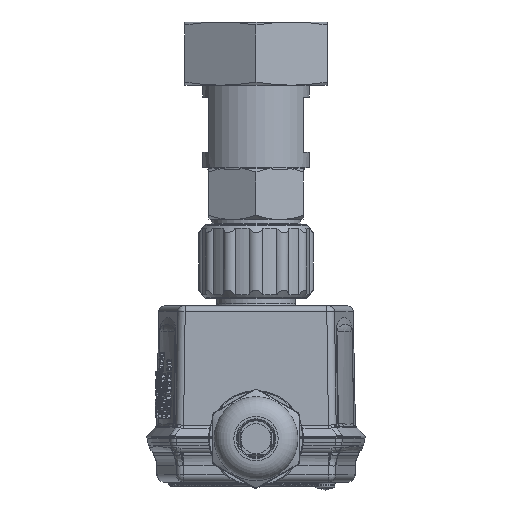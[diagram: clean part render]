
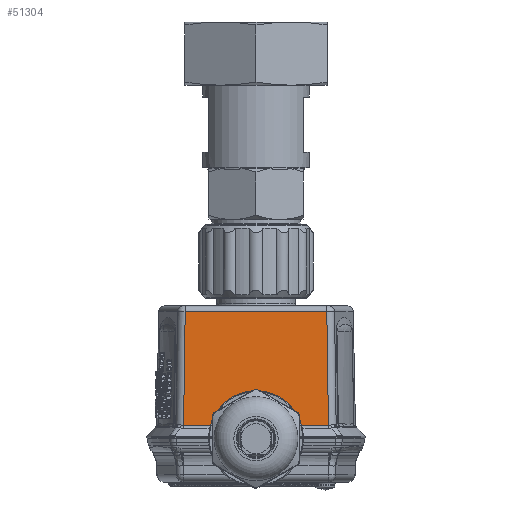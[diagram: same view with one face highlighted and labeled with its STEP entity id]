
A CAD part, front view. The second image highlights one B-rep face of the part: STEP entity #51304.
In plain terms, the highlighted planar face has unit normal (0, -1, 0.018).
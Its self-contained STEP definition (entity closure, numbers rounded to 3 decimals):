
#934=(
BOUNDED_CURVE()
B_SPLINE_CURVE(3,(#121548,#121549,#121550,#121551,#121552,#121553),
 .UNSPECIFIED.,.F.,.F.)
B_SPLINE_CURVE_WITH_KNOTS((4,2,4),(3.188,3.95,4.712),
 .UNSPECIFIED.)
CURVE()
GEOMETRIC_REPRESENTATION_ITEM()
RATIONAL_B_SPLINE_CURVE((1.,1.,1.,1.,1.,1.))
REPRESENTATION_ITEM('')
);
#935=(
BOUNDED_CURVE()
B_SPLINE_CURVE(3,(#121557,#121558,#121559,#121560,#121561,#121562),
 .UNSPECIFIED.,.F.,.F.)
B_SPLINE_CURVE_WITH_KNOTS((4,2,4),(1.571,2.333,3.095),
 .UNSPECIFIED.)
CURVE()
GEOMETRIC_REPRESENTATION_ITEM()
RATIONAL_B_SPLINE_CURVE((1.,1.,1.,1.,1.,1.))
REPRESENTATION_ITEM('')
);
#3488=LINE('',#121530,#5964);
#3489=LINE('',#121546,#5965);
#3490=LINE('',#121564,#5966);
#3491=LINE('',#121580,#5967);
#3492=LINE('',#121582,#5968);
#3493=LINE('',#121584,#5969);
#3494=LINE('',#121585,#5970);
#5964=VECTOR('',#63180,10.767);
#5965=VECTOR('',#63181,3.643);
#5966=VECTOR('',#63184,3.643);
#5967=VECTOR('',#63185,10.767);
#5968=VECTOR('',#63186,28.884);
#5969=VECTOR('',#63187,35.856);
#5970=VECTOR('',#63188,28.884);
#8889=B_SPLINE_CURVE_WITH_KNOTS('',3,(#121532,#121533,#121534,#121535,#121536,
#121537,#121538,#121539,#121540,#121541,#121542,#121543,#121544),
 .UNSPECIFIED.,.F.,.F.,(4,3,3,3,4),(5.107,5.384,5.651,
5.919,6.167),.UNSPECIFIED.);
#8890=B_SPLINE_CURVE_WITH_KNOTS('',3,(#121566,#121567,#121568,#121569,#121570,
#121571,#121572,#121573,#121574,#121575,#121576,#121577,#121578),
 .UNSPECIFIED.,.F.,.F.,(4,3,3,3,4),(0.116,0.381,
0.646,0.911,1.176),.UNSPECIFIED.);
#10525=PLANE('',#54745);
#13037=FACE_OUTER_BOUND('',#16238,.T.);
#16238=EDGE_LOOP('',(#42622,#42623,#42624,#42625,#42626,#42627,#42628,#42629,
#42630,#42631,#42632,#42633));
#18386=CIRCLE('',#54746,12.2);
#22986=VERTEX_POINT('',#121528);
#22987=VERTEX_POINT('',#121529);
#22988=VERTEX_POINT('',#121531);
#22989=VERTEX_POINT('',#121545);
#22990=VERTEX_POINT('',#121547);
#22991=VERTEX_POINT('',#121554);
#22992=VERTEX_POINT('',#121556);
#22993=VERTEX_POINT('',#121563);
#22994=VERTEX_POINT('',#121565);
#22995=VERTEX_POINT('',#121579);
#22996=VERTEX_POINT('',#121581);
#22997=VERTEX_POINT('',#121583);
#29721=EDGE_CURVE('',#22986,#22987,#3488,.T.);
#29722=EDGE_CURVE('',#22987,#22988,#8889,.T.);
#29723=EDGE_CURVE('',#22988,#22989,#3489,.T.);
#29724=EDGE_CURVE('',#22990,#22989,#934,.T.);
#29725=EDGE_CURVE('',#22990,#22991,#18386,.T.);
#29726=EDGE_CURVE('',#22992,#22991,#935,.T.);
#29727=EDGE_CURVE('',#22992,#22993,#3490,.T.);
#29728=EDGE_CURVE('',#22993,#22994,#8890,.T.);
#29729=EDGE_CURVE('',#22994,#22995,#3491,.T.);
#29730=EDGE_CURVE('',#22995,#22996,#3492,.T.);
#29731=EDGE_CURVE('',#22996,#22997,#3493,.T.);
#29732=EDGE_CURVE('',#22997,#22986,#3494,.T.);
#42622=ORIENTED_EDGE('',*,*,#29721,.T.);
#42623=ORIENTED_EDGE('',*,*,#29722,.T.);
#42624=ORIENTED_EDGE('',*,*,#29723,.T.);
#42625=ORIENTED_EDGE('',*,*,#29724,.F.);
#42626=ORIENTED_EDGE('',*,*,#29725,.T.);
#42627=ORIENTED_EDGE('',*,*,#29726,.F.);
#42628=ORIENTED_EDGE('',*,*,#29727,.T.);
#42629=ORIENTED_EDGE('',*,*,#29728,.T.);
#42630=ORIENTED_EDGE('',*,*,#29729,.T.);
#42631=ORIENTED_EDGE('',*,*,#29730,.T.);
#42632=ORIENTED_EDGE('',*,*,#29731,.T.);
#42633=ORIENTED_EDGE('',*,*,#29732,.T.);
#51304=ADVANCED_FACE('',(#13037),#10525,.T.);
#54745=AXIS2_PLACEMENT_3D('',#121527,#63178,#63179);
#54746=AXIS2_PLACEMENT_3D('',#121555,#63182,#63183);
#63178=DIRECTION('center_axis',(0.,-1.,0.017));
#63179=DIRECTION('ref_axis',(0.,-0.017,-1.));
#63180=DIRECTION('',(1.,0.,0.));
#63181=DIRECTION('',(0.,0.017,1.));
#63182=DIRECTION('center_axis',(0.,1.,
-0.017));
#63183=DIRECTION('ref_axis',(0.047,0.017,0.999));
#63184=DIRECTION('',(0.,-0.017,-1.));
#63185=DIRECTION('',(1.,0.,0.));
#63186=DIRECTION('',(-0.014,0.017,1.));
#63187=DIRECTION('',(-1.,0.,0.));
#63188=DIRECTION('',(-0.014,-0.017,-1.));
#121527=CARTESIAN_POINT('Origin',(20.,-23.,-33.5));
#121528=CARTESIAN_POINT('',(-18.336,-22.945,-30.35));
#121529=CARTESIAN_POINT('',(-7.569,-22.945,-30.35));
#121530=CARTESIAN_POINT('',(-7.503,-22.945,-30.35));
#121531=CARTESIAN_POINT('',(-0.95,-22.858,-25.359));
#121532=CARTESIAN_POINT('Ctrl Pts',(-7.569,-22.945,
-30.35));
#121533=CARTESIAN_POINT('Ctrl Pts',(-7.292,-22.933,
-29.684));
#121534=CARTESIAN_POINT('Ctrl Pts',(-6.914,-22.922,
-29.03));
#121535=CARTESIAN_POINT('Ctrl Pts',(-6.443,-22.912,
-28.431));
#121536=CARTESIAN_POINT('Ctrl Pts',(-5.988,-22.901,
-27.853));
#121537=CARTESIAN_POINT('Ctrl Pts',(-5.446,-22.892,
-27.328));
#121538=CARTESIAN_POINT('Ctrl Pts',(-4.843,-22.885,
-26.886));
#121539=CARTESIAN_POINT('Ctrl Pts',(-4.238,-22.877,
-26.444));
#121540=CARTESIAN_POINT('Ctrl Pts',(-3.573,-22.871,
-26.086));
#121541=CARTESIAN_POINT('Ctrl Pts',(-2.885,-22.866,
-25.828));
#121542=CARTESIAN_POINT('Ctrl Pts',(-2.248,-22.862,
-25.588));
#121543=CARTESIAN_POINT('Ctrl Pts',(-1.593,-22.859,
-25.434));
#121544=CARTESIAN_POINT('Ctrl Pts',(-0.95,-22.858,
-25.359));
#121545=CARTESIAN_POINT('',(-0.95,-22.794,-21.716));
#121546=CARTESIAN_POINT('',(-0.95,-23.,-33.5));
#121547=CARTESIAN_POINT('',(-0.569,-22.787,-21.317));
#121548=CARTESIAN_POINT('Ctrl Pts',(-0.569,-22.787,
-21.317));
#121549=CARTESIAN_POINT('Ctrl Pts',(-0.67,-22.787,
-21.321));
#121550=CARTESIAN_POINT('Ctrl Pts',(-0.769,-22.788,
-21.367));
#121551=CARTESIAN_POINT('Ctrl Pts',(-0.91,-22.791,
-21.514));
#121552=CARTESIAN_POINT('Ctrl Pts',(-0.95,-22.793,
-21.614));
#121553=CARTESIAN_POINT('Ctrl Pts',(-0.95,-22.794,-21.716));
#121554=CARTESIAN_POINT('',(0.569,-22.787,-21.317));
#121555=CARTESIAN_POINT('Origin',(0.,-23.,
-33.502));
#121556=CARTESIAN_POINT('',(0.95,-22.794,-21.716));
#121557=CARTESIAN_POINT('Ctrl Pts',(0.95,-22.794,-21.716));
#121558=CARTESIAN_POINT('Ctrl Pts',(0.95,-22.793,
-21.614));
#121559=CARTESIAN_POINT('Ctrl Pts',(0.91,-22.791,
-21.514));
#121560=CARTESIAN_POINT('Ctrl Pts',(0.769,-22.788,
-21.367));
#121561=CARTESIAN_POINT('Ctrl Pts',(0.67,-22.787,
-21.321));
#121562=CARTESIAN_POINT('Ctrl Pts',(0.569,-22.787,
-21.317));
#121563=CARTESIAN_POINT('',(0.95,-22.858,-25.359));
#121564=CARTESIAN_POINT('',(0.95,-23.,-33.5));
#121565=CARTESIAN_POINT('',(7.569,-22.945,-30.35));
#121566=CARTESIAN_POINT('Ctrl Pts',(0.95,-22.858,
-25.359));
#121567=CARTESIAN_POINT('Ctrl Pts',(1.669,-22.859,
-25.443));
#121568=CARTESIAN_POINT('Ctrl Pts',(2.378,-22.862,
-25.622));
#121569=CARTESIAN_POINT('Ctrl Pts',(3.05,-22.867,
-25.892));
#121570=CARTESIAN_POINT('Ctrl Pts',(3.722,-22.872,
-26.161));
#121571=CARTESIAN_POINT('Ctrl Pts',(4.359,-22.878,
-26.52));
#121572=CARTESIAN_POINT('Ctrl Pts',(4.937,-22.886,
-26.956));
#121573=CARTESIAN_POINT('Ctrl Pts',(5.515,-22.893,-27.392));
#121574=CARTESIAN_POINT('Ctrl Pts',(6.035,-22.902,
-27.906));
#121575=CARTESIAN_POINT('Ctrl Pts',(6.479,-22.912,
-28.478));
#121576=CARTESIAN_POINT('Ctrl Pts',(6.923,-22.922,
-29.05));
#121577=CARTESIAN_POINT('Ctrl Pts',(7.291,-22.933,
-29.682));
#121578=CARTESIAN_POINT('Ctrl Pts',(7.569,-22.945,-30.35));
#121579=CARTESIAN_POINT('',(18.336,-22.945,-30.35));
#121580=CARTESIAN_POINT('',(18.341,-22.945,-30.35));
#121581=CARTESIAN_POINT('',(17.928,-22.441,-1.474));
#121582=CARTESIAN_POINT('',(18.381,-23.,-33.523));
#121583=CARTESIAN_POINT('',(-17.928,-22.441,-1.474));
#121584=CARTESIAN_POINT('',(-17.907,-22.441,-1.474));
#121585=CARTESIAN_POINT('',(-18.373,-22.991,-32.958));
